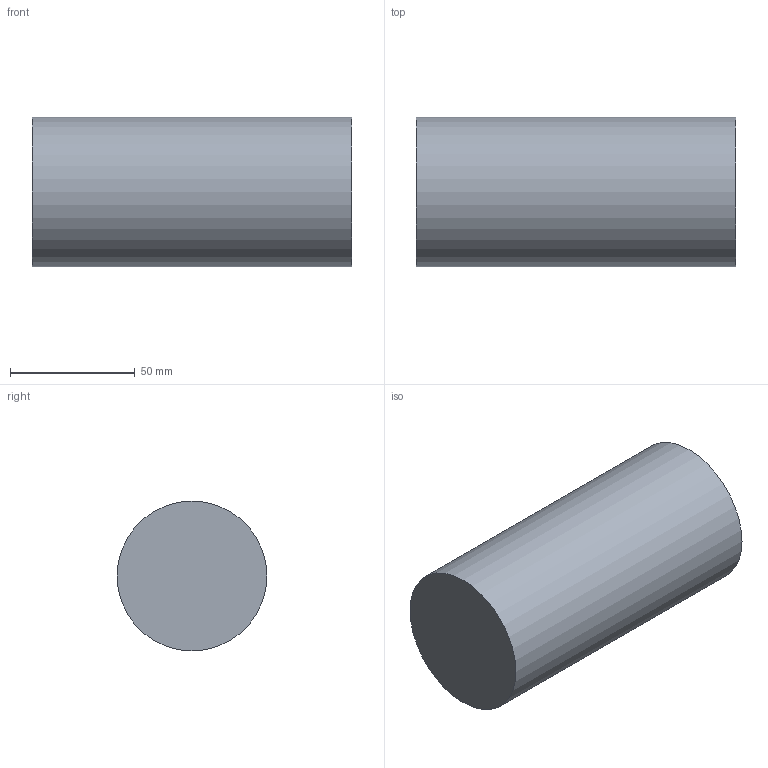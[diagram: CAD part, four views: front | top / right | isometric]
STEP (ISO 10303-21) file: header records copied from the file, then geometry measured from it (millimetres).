
FILE_DESCRIPTION(('Open CASCADE Model'),'2;1');
FILE_NAME('Open CASCADE Shape Model','2026-09-19T12:55:25',('Author'),( 'Open CASCADE'),'Open CASCADE STEP processor 7.9','Open CASCADE 7.9' ,'Unknown');
FILE_SCHEMA(('AUTOMOTIVE_DESIGN { 1 0 10303 214 1 1 1 1 }'));
Length unit declared in the file: millimetre
Products named in the file (1): Open CASCADE STEP translator 7.9 471
Bounding box: 128 x 60 x 60 mm (x, y, z)
Volume: 361911.5 mm3; surface area: 29782.3 mm2
Topology: 1 solids, 1 shells, 3 faces, 3 edges, 2 vertices
Faces by surface type: plane 2, cylinder 1
Full cylindrical faces by diameter (mm): 60 x1
Entity records: 108 total; most frequent: DIRECTION 19, CARTESIAN_POINT 15, AXIS2_PLACEMENT_3D 6, ORIENTED_EDGE 6, PCURVE 6, DEFINITIONAL_REPRESENTATION 6, LINE 5, VECTOR 5
